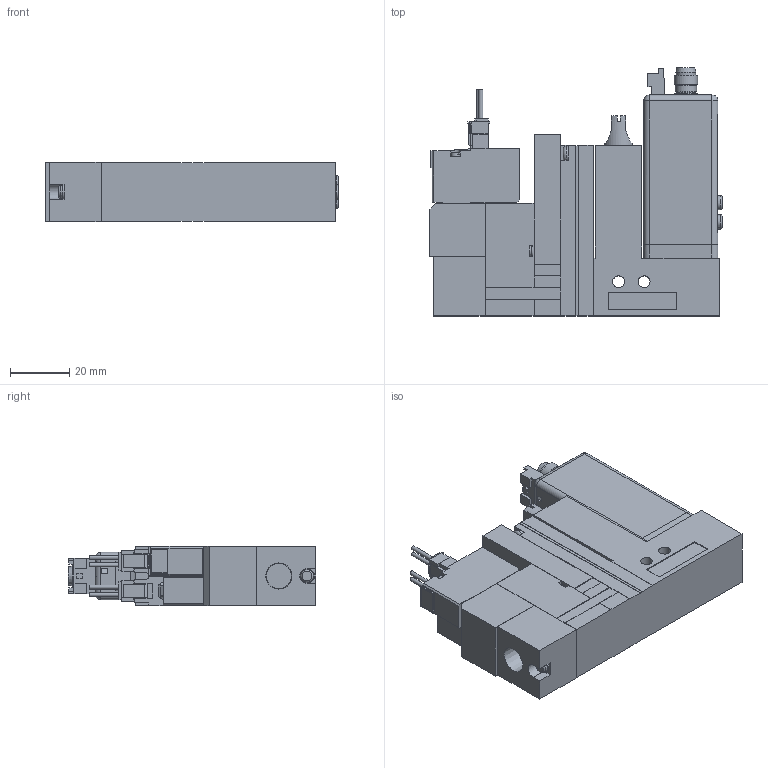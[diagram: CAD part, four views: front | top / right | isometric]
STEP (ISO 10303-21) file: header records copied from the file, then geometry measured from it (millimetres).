
FILE_DESCRIPTION(('STEP AP203'),'1');
FILE_NAME('22_22PLC5ALR.stp','2025-06-05T07:51:57',(' '),(' '),'Spatial InterOp 3D',' ',' ');
FILE_SCHEMA(('CONFIG_CONTROL_DESIGN'));
Length unit declared in the file: millimetre
Products named in the file (5): BMC22S※※※※22_22PLC5ALR; Solenoid valve A; Unit LC; Base SR10R; MVS-202
Assembly tree (4 placements, depth 2):
  BMC22S※※※※22_22PLC5ALR
    Solenoid valve A
    Unit LC
    Base SR10R
    MVS-202
Bounding box: 98.5 x 83.6 x 20 mm (x, y, z)
Volume: 109404.9 mm3; surface area: 30861.9 mm2
Topology: 4 solids, 8 shells, 807 faces, 2094 edges, 1365 vertices
Faces by surface type: plane 684, cylinder 96, cone 15, torus 8, sphere 4
Full cylindrical faces by diameter (mm): 1 x4, 1.4 x4, 1.5 x1, 2.5 x1, 3 x4, 3.5 x4, 3.6 x1, 4 x2, 4.134 x1, 4.5 x4, 4.8 x3, 5 x2, 5.8 x2, 6 x2, 6.5 x3, 7 x1, 7.2 x1, 7.9 x1, 8 x2
Entity records: 24259 total; most frequent: CARTESIAN_POINT 4387, ORIENTED_EDGE 4020, DIRECTION 3872, EDGE_CURVE 2010, LINE 1736, VECTOR 1736, VERTEX_POINT 1352, AXIS2_PLACEMENT_3D 1068
